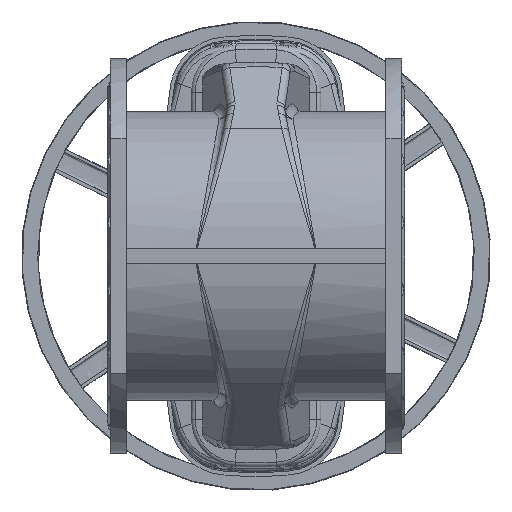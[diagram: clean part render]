
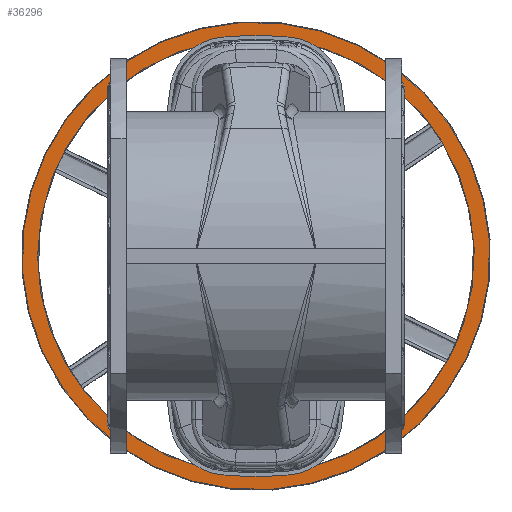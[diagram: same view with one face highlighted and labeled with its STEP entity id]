
A CAD part, front view. The second image highlights one B-rep face of the part: STEP entity #36296.
In plain terms, the highlighted planar face has unit normal (0, -1, 0).
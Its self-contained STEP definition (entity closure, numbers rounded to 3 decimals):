
#635 = CARTESIAN_POINT ( 'NONE',  ( 0., 1209., 0. ) ) ;
#636 = DIRECTION ( 'NONE',  ( 0., -1., 0. ) ) ;
#637 = DIRECTION ( 'NONE',  ( -1., 0., 0. ) ) ;
#639 = CARTESIAN_POINT ( 'NONE',  ( 0., 1209., 0. ) ) ;
#640 = DIRECTION ( 'NONE',  ( 0., 1., 0. ) ) ;
#641 = DIRECTION ( 'NONE',  ( -0.899, 0., 0.438 ) ) ;
#6251 = VERTEX_POINT ( 'NONE', #17101 ) ;
#6252 = VERTEX_POINT ( 'NONE', #17102 ) ;
#13872 = ORIENTED_EDGE ( 'NONE', *, *, #37673, .F. ) ;
#13874 = ORIENTED_EDGE ( 'NONE', *, *, #37672, .F. ) ;
#17101 = CARTESIAN_POINT ( 'NONE',  ( -279.221, 1209., 0. ) ) ;
#17102 = CARTESIAN_POINT ( 'NONE',  ( -268.893, 1209., 131.022 ) ) ;
#33679 = AXIS2_PLACEMENT_3D ( 'NONE', #47356, #47360, #47361 ) ;
#33916 = AXIS2_PLACEMENT_3D ( 'NONE', #635, #636, #637 ) ;
#33917 = AXIS2_PLACEMENT_3D ( 'NONE', #639, #640, #641 ) ;
#36296 = ADVANCED_FACE ( 'NONE', ( #38366, #38361 ), #47358, .F. ) ;
#37672 = EDGE_CURVE ( 'NONE', #6251, #6251, #38854, .T. ) ;
#37673 = EDGE_CURVE ( 'NONE', #6252, #6252, #38859, .T. ) ;
#38361 = FACE_BOUND ( 'NONE', #41317, .T. ) ;
#38366 = FACE_OUTER_BOUND ( 'NONE', #41269, .T. ) ;
#38854 = CIRCLE ( 'NONE', #33916, 279.221 ) ;
#38859 = CIRCLE ( 'NONE', #33917, 299.116 ) ;
#41269 = EDGE_LOOP ( 'NONE', ( #13872 ) ) ;
#41317 = EDGE_LOOP ( 'NONE', ( #13874 ) ) ;
#47356 = CARTESIAN_POINT ( 'NONE',  ( 265.297, 1209., -129.27 ) ) ;
#47358 = PLANE ( 'NONE',  #33679 ) ;
#47360 = DIRECTION ( 'NONE',  ( 0., 1., 0. ) ) ;
#47361 = DIRECTION ( 'NONE',  ( -0.899, 0., 0.438 ) ) ;
